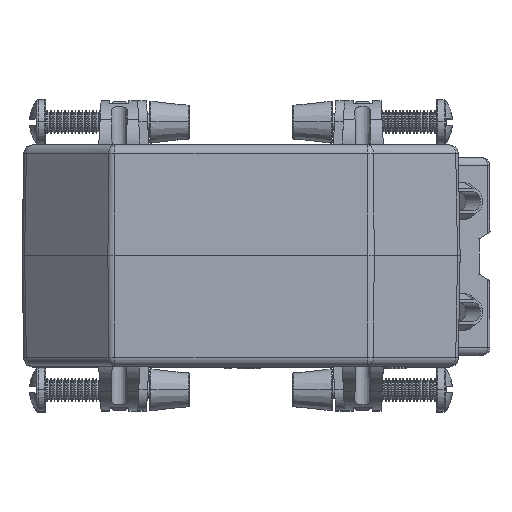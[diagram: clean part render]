
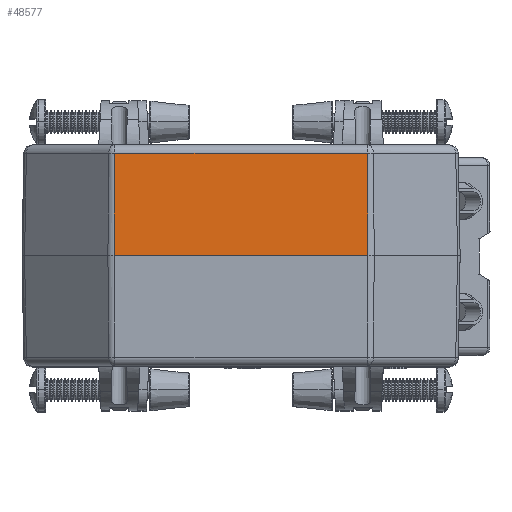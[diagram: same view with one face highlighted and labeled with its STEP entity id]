
A CAD part, top view. The second image highlights one B-rep face of the part: STEP entity #48577.
In plain terms, the highlighted planar face has unit normal (0, 0.018, 1).
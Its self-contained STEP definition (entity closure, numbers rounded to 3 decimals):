
#3108=DIRECTION('',(1.,0.,0.));
#3109=VECTOR('',#3108,57.343);
#3110=CARTESIAN_POINT('',(-28.672,25.,80.));
#3111=LINE('',#3110,#3109);
#3120=DIRECTION('',(0.007,1.,-0.017));
#3121=VECTOR('',#3120,23.039);
#3122=CARTESIAN_POINT('',(-28.672,25.,80.));
#3123=LINE('',#3122,#3121);
#3124=DIRECTION('',(0.007,-1.,0.017));
#3125=VECTOR('',#3124,23.039);
#3126=CARTESIAN_POINT('',(28.505,48.035,79.598));
#3127=LINE('',#3126,#3125);
#3979=CARTESIAN_POINT('',(28.672,25.,80.));
#4008=DIRECTION('',(-1.,0.,0.));
#4009=VECTOR('',#4008,57.01);
#4010=CARTESIAN_POINT('',(28.505,48.035,79.598));
#4011=LINE('',#4010,#4009);
#40500=CARTESIAN_POINT('',(28.505,48.035,79.598));
#40501=VERTEX_POINT('',#40500);
#40502=CARTESIAN_POINT('',(-28.505,48.035,
79.598));
#40503=VERTEX_POINT('',#40502);
#41103=VERTEX_POINT('',#3979);
#41104=CARTESIAN_POINT('',(-28.672,25.,80.));
#41105=VERTEX_POINT('',#41104);
#48563=CARTESIAN_POINT('',(-52.984,25.,80.));
#48564=DIRECTION('',(0.,-0.017,-1.));
#48565=DIRECTION('',(1.,0.,0.));
#48566=AXIS2_PLACEMENT_3D('',#48563,#48564,#48565);
#48567=PLANE('',#48566);
#48568=ORIENTED_EDGE('',*,*,#48553,.F.);
#48570=ORIENTED_EDGE('',*,*,#48569,.T.);
#48572=ORIENTED_EDGE('',*,*,#48571,.F.);
#48574=ORIENTED_EDGE('',*,*,#48573,.T.);
#48575=EDGE_LOOP('',(#48568,#48570,#48572,#48574));
#48576=FACE_OUTER_BOUND('',#48575,.F.);
#48553=EDGE_CURVE('',#41105,#41103,#3111,.T.);
#48569=EDGE_CURVE('',#41105,#40503,#3123,.T.);
#48571=EDGE_CURVE('',#40501,#40503,#4011,.T.);
#48573=EDGE_CURVE('',#40501,#41103,#3127,.T.);
#48577=ADVANCED_FACE('',(#48576),#48567,.F.);
